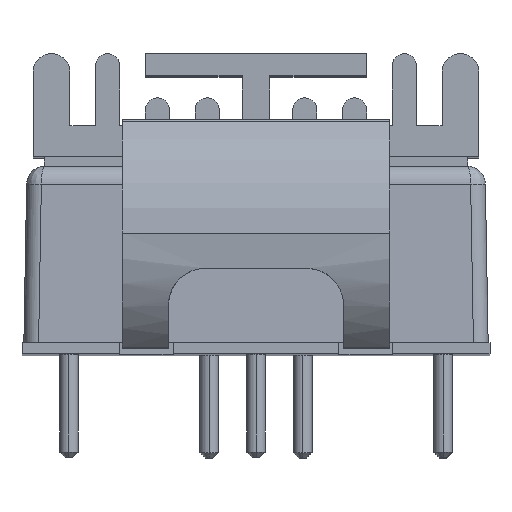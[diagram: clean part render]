
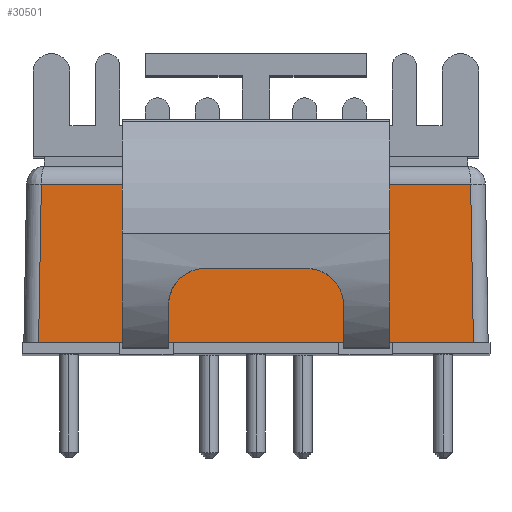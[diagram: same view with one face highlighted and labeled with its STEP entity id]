
A CAD part, top view. The second image highlights one B-rep face of the part: STEP entity #30501.
In plain terms, the highlighted planar face has unit normal (0, 0.018, 1).
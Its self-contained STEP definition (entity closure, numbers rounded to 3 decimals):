
#137 = PLANE ( 'NONE',  #216 ) ;
#216 = AXIS2_PLACEMENT_3D ( 'NONE', #5128, #22426, #7569 ) ;
#733 = VERTEX_POINT ( 'NONE', #22966 ) ;
#809 = CARTESIAN_POINT ( 'NONE',  ( -11.633, 9.217, 25.1 ) ) ;
#1481 = LINE ( 'NONE', #23778, #26236 ) ;
#2205 = VECTOR ( 'NONE', #7175, 1000. ) ;
#2525 = DIRECTION ( 'NONE',  ( 1., 0., 0. ) ) ;
#3314 = DIRECTION ( 'NONE',  ( -1., 0., 0. ) ) ;
#3659 = DIRECTION ( 'NONE',  ( 1., 0., 0. ) ) ;
#5128 = CARTESIAN_POINT ( 'NONE',  ( -12.6, 0.6, 25.25 ) ) ;
#5960 = CARTESIAN_POINT ( 'NONE',  ( 11.793, 1.026, 25.243 ) ) ;
#6615 = LINE ( 'NONE', #15793, #25620 ) ;
#6645 = VERTEX_POINT ( 'NONE', #14251 ) ;
#6820 = ORIENTED_EDGE ( 'NONE', *, *, #18279, .T. ) ;
#6999 = LINE ( 'NONE', #20946, #15902 ) ;
#7175 = DIRECTION ( 'NONE',  ( 1., 0., 0. ) ) ;
#7569 = DIRECTION ( 'NONE',  ( 0., -1., 0.017 ) ) ;
#8137 = EDGE_CURVE ( 'NONE', #21349, #13883, #6615, .T. ) ;
#8429 = EDGE_CURVE ( 'NONE', #13883, #29213, #21764, .T. ) ;
#8431 = DIRECTION ( 'NONE',  ( -0.017, 1., -0.017 ) ) ;
#8596 = VERTEX_POINT ( 'NONE', #24616 ) ;
#9894 = CARTESIAN_POINT ( 'NONE',  ( -4.5, 0.6, 25.25 ) ) ;
#10009 = VECTOR ( 'NONE', #12353, 1000. ) ;
#11319 = VECTOR ( 'NONE', #8431, 1000. ) ;
#11384 = DIRECTION ( 'NONE',  ( 1., 0., 0. ) ) ;
#11985 = EDGE_CURVE ( 'NONE', #12345, #28331, #6999, .T. ) ;
#12027 = CARTESIAN_POINT ( 'NONE',  ( -12.6, 0.6, 25.25 ) ) ;
#12345 = VERTEX_POINT ( 'NONE', #32073 ) ;
#12353 = DIRECTION ( 'NONE',  ( -0.017, -1., 0.017 ) ) ;
#13260 = LINE ( 'NONE', #809, #24921 ) ;
#13575 = ORIENTED_EDGE ( 'NONE', *, *, #8429, .T. ) ;
#13617 = EDGE_CURVE ( 'NONE', #8596, #12345, #1481, .T. ) ;
#13883 = VERTEX_POINT ( 'NONE', #30125 ) ;
#14251 = CARTESIAN_POINT ( 'NONE',  ( 11.65, 9.217, 25.1 ) ) ;
#14405 = VECTOR ( 'NONE', #2525, 1000. ) ;
#14834 = CARTESIAN_POINT ( 'NONE',  ( -12.6, 0.6, 25.25 ) ) ;
#15092 = ORIENTED_EDGE ( 'NONE', *, *, #13617, .T. ) ;
#15793 = CARTESIAN_POINT ( 'NONE',  ( -12.6, 0.6, 25.25 ) ) ;
#15902 = VECTOR ( 'NONE', #3659, 1000. ) ;
#16293 = ORIENTED_EDGE ( 'NONE', *, *, #31488, .T. ) ;
#16567 = LINE ( 'NONE', #24722, #10009 ) ;
#17945 = LINE ( 'NONE', #5960, #11319 ) ;
#18279 = EDGE_CURVE ( 'NONE', #28331, #21349, #21931, .T. ) ;
#20946 = CARTESIAN_POINT ( 'NONE',  ( -12.6, 0.6, 25.25 ) ) ;
#21091 = ORIENTED_EDGE ( 'NONE', *, *, #21364, .T. ) ;
#21349 = VERTEX_POINT ( 'NONE', #23295 ) ;
#21364 = EDGE_CURVE ( 'NONE', #29213, #6645, #17945, .T. ) ;
#21764 = LINE ( 'NONE', #14834, #14405 ) ;
#21931 = LINE ( 'NONE', #12027, #2205 ) ;
#22426 = DIRECTION ( 'NONE',  ( 0., 0.017, 1. ) ) ;
#22447 = ORIENTED_EDGE ( 'NONE', *, *, #11985, .T. ) ;
#22839 = EDGE_CURVE ( 'NONE', #733, #8596, #16567, .T. ) ;
#22966 = CARTESIAN_POINT ( 'NONE',  ( -11.65, 9.217, 25.1 ) ) ;
#23295 = CARTESIAN_POINT ( 'NONE',  ( 4.5, 0.6, 25.25 ) ) ;
#23778 = CARTESIAN_POINT ( 'NONE',  ( -12.6, 0.6, 25.25 ) ) ;
#24616 = CARTESIAN_POINT ( 'NONE',  ( -11.8, 0.6, 25.25 ) ) ;
#24722 = CARTESIAN_POINT ( 'NONE',  ( -11.8, 0.586, 25.25 ) ) ;
#24921 = VECTOR ( 'NONE', #3314, 1000. ) ;
#25620 = VECTOR ( 'NONE', #30658, 1000. ) ;
#26123 = ORIENTED_EDGE ( 'NONE', *, *, #8137, .T. ) ;
#26236 = VECTOR ( 'NONE', #11384, 1000. ) ;
#27374 = FACE_OUTER_BOUND ( 'NONE', #30256, .T. ) ;
#27948 = ORIENTED_EDGE ( 'NONE', *, *, #22839, .T. ) ;
#28331 = VERTEX_POINT ( 'NONE', #9894 ) ;
#29213 = VERTEX_POINT ( 'NONE', #29640 ) ;
#29640 = CARTESIAN_POINT ( 'NONE',  ( 11.8, 0.6, 25.25 ) ) ;
#30125 = CARTESIAN_POINT ( 'NONE',  ( 7.4, 0.6, 25.25 ) ) ;
#30256 = EDGE_LOOP ( 'NONE', ( #21091, #16293, #27948, #15092, #22447, #6820, #26123, #13575 ) ) ;
#30501 = ADVANCED_FACE ( 'NONE', ( #27374 ), #137, .T. ) ;
#30658 = DIRECTION ( 'NONE',  ( 1., 0., 0. ) ) ;
#31488 = EDGE_CURVE ( 'NONE', #6645, #733, #13260, .T. ) ;
#32073 = CARTESIAN_POINT ( 'NONE',  ( -7.4, 0.6, 25.25 ) ) ;
